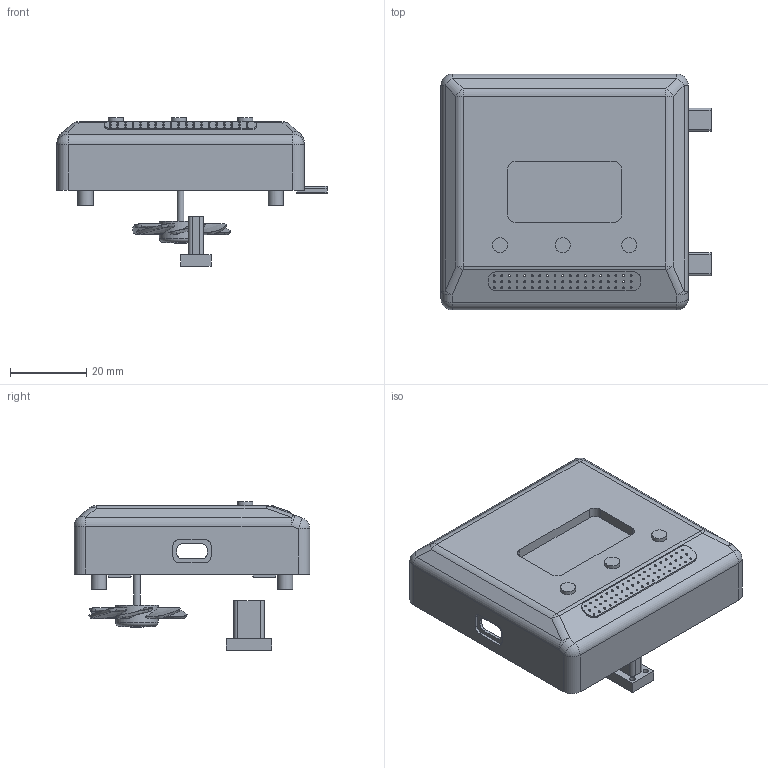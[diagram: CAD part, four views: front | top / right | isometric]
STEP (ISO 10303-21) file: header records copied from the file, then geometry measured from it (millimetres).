
FILE_DESCRIPTION(/* description */ (''),/* implementation_level */ '2;1');
FILE_NAME(/* name */ '样题4.stp',/* time_stamp */ '2021-03-16T12:56:08+08:00',/* author */ (''),/* organization */ (''),/* preprocessor_version */ 'ST-DEVELOPER v16',/* originating_system */ 'SIEMENS PLM Software NX 10.0',/* authorisation */ '');
FILE_SCHEMA (('AUTOMOTIVE_DESIGN { 1 0 10303 214 3 1 1 1 }'));
Length unit declared in the file: millimetre
Products named in the file (8): 外接件; 电气元件; 喇叭; 风扇; 电路板; 屏幕; 按钮; 样题4
Assembly tree (10 placements, depth 2):
  样题4
    按钮  x3
    屏幕
    电路板
    风扇
    喇叭
    电气元件
    外接件  x2
Bounding box: 71 x 62 x 39 mm (x, y, z)
Volume: 14720 mm3; surface area: 22201.2 mm2
Topology: 11 solids, 12 shells, 444 faces, 1145 edges, 729 vertices
Faces by surface type: plane 175, cylinder 128, extrusion 57, bspline 56, sphere 27, torus 1
Full cylindrical faces by diameter (mm): 1.5 x4, 1.764 x2, 2 x4, 3.92 x1, 4 x11, 8.96 x1, 11.2 x1
Entity records: 28574 total; most frequent: CARTESIAN_POINT 18468, ORIENTED_EDGE 2008, DIRECTION 1828, EDGE_CURVE 1004, VERTEX_POINT 694, EDGE_LOOP 664, AXIS2_PLACEMENT_3D 662, VECTOR 504
